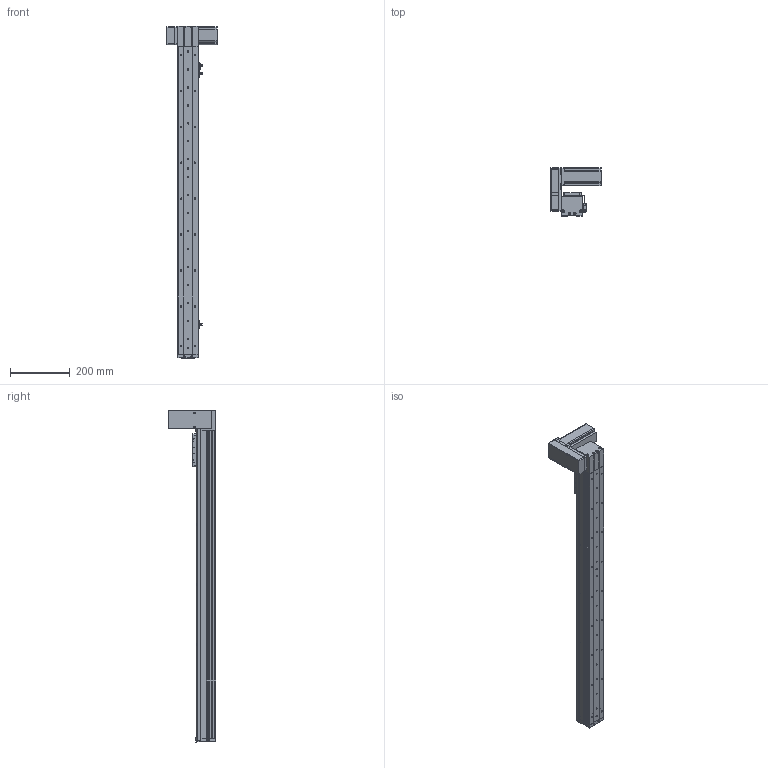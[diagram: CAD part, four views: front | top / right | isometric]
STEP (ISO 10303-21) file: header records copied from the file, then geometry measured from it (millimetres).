
FILE_DESCRIPTION (( 'STEP AP214' ), '1' );
FILE_NAME ('KSD68BS-S850-MRU-CR.STEP', '2019-11-08T05:57:03', ( '微软用户' ), ( '微软中国' ), 'SwSTEP 2.0', 'SolidWorks 2014', '' );
FILE_SCHEMA (( 'AUTOMOTIVE_DESIGN' ));
Length unit declared in the file: millimetre
Products named in the file (14): KSD68BS 850行程盖板全封闭; U倰嫖萇EEㄜSX672; 台达ECMA－C20604AS伺服电机（400W); KSD68BS 850行程底板全封闭; KSD68BS-S850-MRU-CR; 68遵裔啣揤啣1; 68宽单导轨全封闭丝杆传动安装板1防护罩; KSD68BS 850行程侧板全封闭; 68宽单导轨全封闭同步带端板; 68单导轨全封闭同步带电机座右; 68单导轨全封闭同步带安装板; 悵誘欶奻狟殏; 68宽马达安装板连板上折同步带; 感应片68宽全封闭
Assembly tree (17 placements, depth 2):
  KSD68BS-S850-MRU-CR
    KSD68BS 850行程底板全封闭
    台达ECMA－C20604AS伺服电机（400W)
    U倰嫖萇EEㄜSX672  x3
    感应片68宽全封闭
    68宽马达安装板连板上折同步带
    悵誘欶奻狟殏
    68单导轨全封闭同步带安装板
    68单导轨全封闭同步带电机座右
    68宽单导轨全封闭同步带端板
    KSD68BS 850行程侧板全封闭  x2
    68宽单导轨全封闭丝杆传动安装板1防护罩
    68遵裔啣揤啣1  x2
    KSD68BS 850行程盖板全封闭
Bounding box: 167.2 x 159.5 x 1108.1 mm (x, y, z)
Volume: 2335283.8 mm3; surface area: 876614 mm2
Topology: 18 solids, 18 shells, 1474 faces, 4187 edges, 2681 vertices
Faces by surface type: cylinder 691, plane 627, cone 156
Entity records: 46582 total; most frequent: CARTESIAN_POINT 7913, DIRECTION 7005, ORIENTED_EDGE 6702, EDGE_CURVE 3351, AXIS2_PLACEMENT_3D 2519, VERTEX_POINT 2199, LINE 1967, VECTOR 1967
